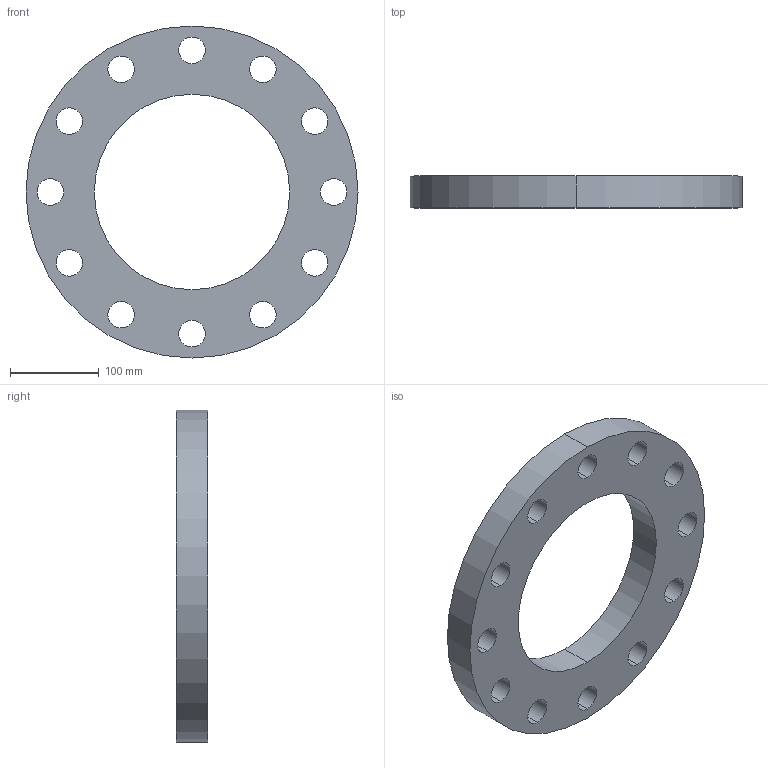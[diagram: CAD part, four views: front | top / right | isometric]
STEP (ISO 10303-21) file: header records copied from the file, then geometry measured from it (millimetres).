
FILE_DESCRIPTION (( 'STEP AP203' ), '1' );
FILE_NAME ('3D_R182-PN40_DN219_176230240.STEP', '2024-07-05T10:33:48', ( '' ), ( '' ), 'SwSTEP 2.0', 'SolidWorks 2024', '' );
FILE_SCHEMA (( 'CONFIG_CONTROL_DESIGN' ));
Length unit declared in the file: millimetre
Products named in the file (1): 3D_R182-PN40_DN219_176230240
Bounding box: 375 x 36 x 375 mm (x, y, z)
Volume: 2294763 mm3; surface area: 235562.6 mm2
Topology: 1 solids, 1 shells, 30 faces, 84 edges, 56 vertices
Faces by surface type: cylinder 28, plane 2
Entity records: 1133 total; most frequent: DIRECTION 202, CARTESIAN_POINT 171, ORIENTED_EDGE 168, AXIS2_PLACEMENT_3D 87, EDGE_CURVE 84, EDGE_LOOP 56, VERTEX_POINT 56, CIRCLE 56
